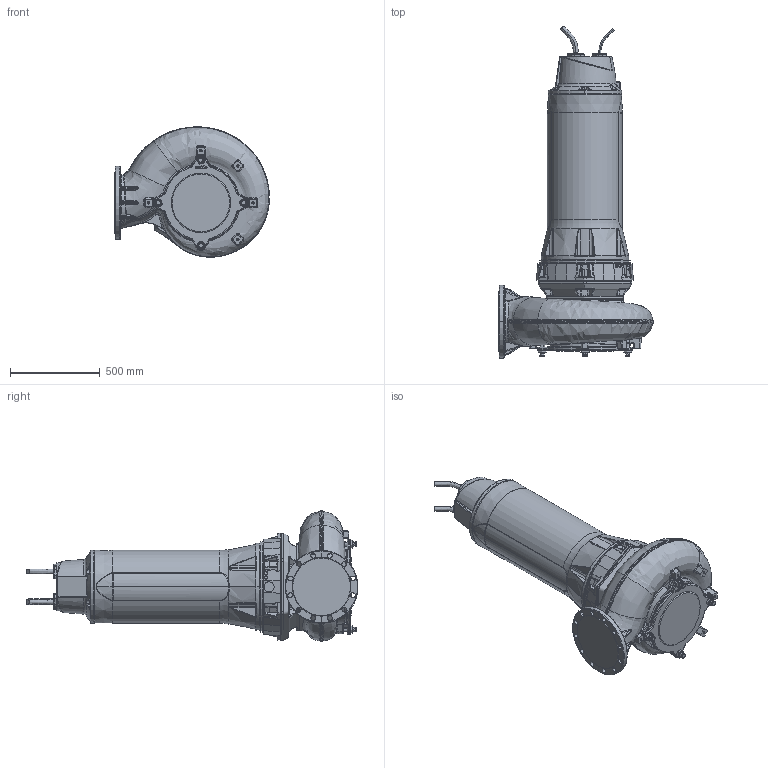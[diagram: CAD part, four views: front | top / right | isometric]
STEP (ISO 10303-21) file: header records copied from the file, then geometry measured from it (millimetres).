
FILE_DESCRIPTION (( 'STEP AP214' ), '1' );
FILE_NAME ('PE5_XFP250J-CB2_MOTOR-OK_B_NG2.STEP', '2017-02-08T13:02:22', ( '' ), ( '' ), 'SwSTEP 2.0', 'SolidWorks 2017', '' );
FILE_SCHEMA (( 'AUTOMOTIVE_DESIGN' ));
Length unit declared in the file: millimetre
Products named in the file (1): PE5_XFP250J-CB2_MOTOR-OK_B_NG2
Bounding box: 860.93 x 1845.08 x 724.76 mm (x, y, z)
Surface area: 3752152.4 mm2
Topology: 39 solids, 40 shells, 2775 faces, 6966 edges, 4242 vertices
Faces by surface type: bspline 872, plane 688, cylinder 626, cone 296, torus 256, sphere 37
Entity records: 192177 total; most frequent: CARTESIAN_POINT 102724, ORIENTED_EDGE 13824, DIRECTION 10324, EDGE_CURVE 6912, VERTEX_POINT 4243, AXIS2_PLACEMENT_3D 4184, EDGE_LOOP 2885, UNCERTAINTY_MEASURE_WITH_UNIT 2778
